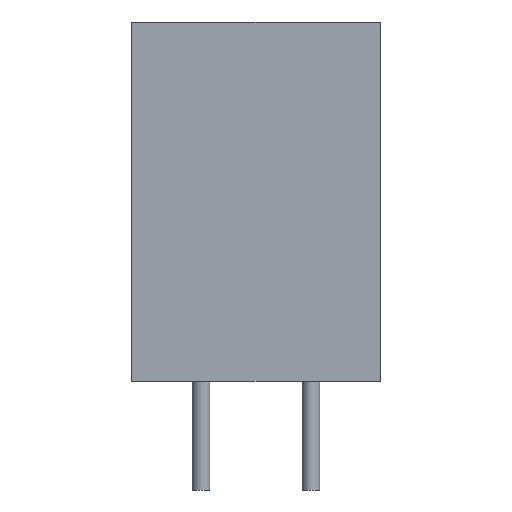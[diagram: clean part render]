
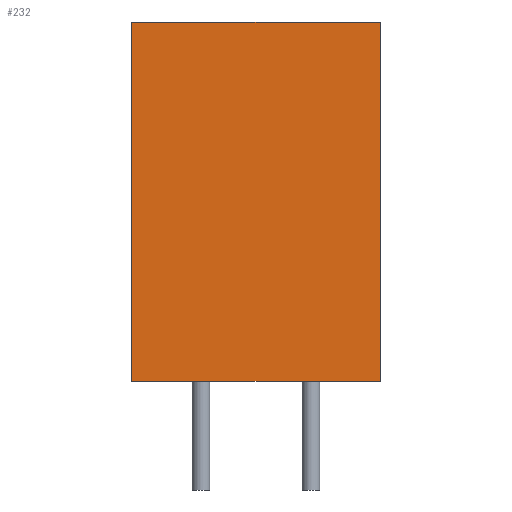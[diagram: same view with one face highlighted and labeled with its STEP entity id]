
A CAD part, front view. The second image highlights one B-rep face of the part: STEP entity #232.
In plain terms, the highlighted planar face has unit normal (0, -1, 0).
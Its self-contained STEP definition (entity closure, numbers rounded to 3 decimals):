
#63 = PLANE('',#64);
#64 = AXIS2_PLACEMENT_3D('',#65,#66,#67);
#65 = CARTESIAN_POINT('',(-3.175,-1.5,0.));
#66 = DIRECTION('',(-1.,0.,0.));
#67 = DIRECTION('',(0.,1.,0.));
#91 = PLANE('',#92);
#92 = AXIS2_PLACEMENT_3D('',#93,#94,#95);
#93 = CARTESIAN_POINT('',(-3.175,1.5,16.5));
#94 = DIRECTION('',(0.,0.,1.));
#95 = DIRECTION('',(1.,0.,0.));
#119 = PLANE('',#120);
#120 = AXIS2_PLACEMENT_3D('',#121,#122,#123);
#121 = CARTESIAN_POINT('',(8.225,1.5,0.));
#122 = DIRECTION('',(1.,0.,-0.));
#123 = DIRECTION('',(0.,-1.,0.));
#145 = PLANE('',#146);
#146 = AXIS2_PLACEMENT_3D('',#147,#148,#149);
#147 = CARTESIAN_POINT('',(-3.175,1.5,0.));
#148 = DIRECTION('',(0.,0.,1.));
#149 = DIRECTION('',(1.,0.,0.));
#162 = VERTEX_POINT('',#163);
#163 = CARTESIAN_POINT('',(8.225,-1.5,16.5));
#184 = EDGE_CURVE('',#185,#162,#187,.T.);
#185 = VERTEX_POINT('',#186);
#186 = CARTESIAN_POINT('',(8.225,-1.5,0.));
#187 = SURFACE_CURVE('',#188,(#192,#199),.PCURVE_S1.);
#188 = LINE('',#189,#190);
#189 = CARTESIAN_POINT('',(8.225,-1.5,0.));
#190 = VECTOR('',#191,1.);
#191 = DIRECTION('',(0.,0.,1.));
#192 = PCURVE('',#119,#193);
#193 = DEFINITIONAL_REPRESENTATION('',(#194),#198);
#194 = LINE('',#195,#196);
#195 = CARTESIAN_POINT('',(3.,0.));
#196 = VECTOR('',#197,1.);
#197 = DIRECTION('',(0.,-1.));
#198 = ( GEOMETRIC_REPRESENTATION_CONTEXT(2) 
PARAMETRIC_REPRESENTATION_CONTEXT() REPRESENTATION_CONTEXT('2D SPACE',''
  ) );
#199 = PCURVE('',#200,#205);
#200 = PLANE('',#201);
#201 = AXIS2_PLACEMENT_3D('',#202,#203,#204);
#202 = CARTESIAN_POINT('',(8.225,-1.5,0.));
#203 = DIRECTION('',(0.,-1.,0.));
#204 = DIRECTION('',(-1.,0.,0.));
#205 = DEFINITIONAL_REPRESENTATION('',(#206),#210);
#206 = LINE('',#207,#208);
#207 = CARTESIAN_POINT('',(0.,-0.));
#208 = VECTOR('',#209,1.);
#209 = DIRECTION('',(0.,-1.));
#210 = ( GEOMETRIC_REPRESENTATION_CONTEXT(2) 
PARAMETRIC_REPRESENTATION_CONTEXT() REPRESENTATION_CONTEXT('2D SPACE',''
  ) );
#232 = ADVANCED_FACE('',(#233),#200,.T.);
#233 = FACE_BOUND('',#234,.T.);
#234 = EDGE_LOOP('',(#235,#236,#259,#282));
#235 = ORIENTED_EDGE('',*,*,#184,.T.);
#236 = ORIENTED_EDGE('',*,*,#237,.T.);
#237 = EDGE_CURVE('',#162,#238,#240,.T.);
#238 = VERTEX_POINT('',#239);
#239 = CARTESIAN_POINT('',(-3.175,-1.5,16.5));
#240 = SURFACE_CURVE('',#241,(#245,#252),.PCURVE_S1.);
#241 = LINE('',#242,#243);
#242 = CARTESIAN_POINT('',(8.225,-1.5,16.5));
#243 = VECTOR('',#244,1.);
#244 = DIRECTION('',(-1.,0.,0.));
#245 = PCURVE('',#200,#246);
#246 = DEFINITIONAL_REPRESENTATION('',(#247),#251);
#247 = LINE('',#248,#249);
#248 = CARTESIAN_POINT('',(0.,-16.5));
#249 = VECTOR('',#250,1.);
#250 = DIRECTION('',(1.,0.));
#251 = ( GEOMETRIC_REPRESENTATION_CONTEXT(2) 
PARAMETRIC_REPRESENTATION_CONTEXT() REPRESENTATION_CONTEXT('2D SPACE',''
  ) );
#252 = PCURVE('',#91,#253);
#253 = DEFINITIONAL_REPRESENTATION('',(#254),#258);
#254 = LINE('',#255,#256);
#255 = CARTESIAN_POINT('',(11.4,-3.));
#256 = VECTOR('',#257,1.);
#257 = DIRECTION('',(-1.,0.));
#258 = ( GEOMETRIC_REPRESENTATION_CONTEXT(2) 
PARAMETRIC_REPRESENTATION_CONTEXT() REPRESENTATION_CONTEXT('2D SPACE',''
  ) );
#259 = ORIENTED_EDGE('',*,*,#260,.F.);
#260 = EDGE_CURVE('',#261,#238,#263,.T.);
#261 = VERTEX_POINT('',#262);
#262 = CARTESIAN_POINT('',(-3.175,-1.5,0.));
#263 = SURFACE_CURVE('',#264,(#268,#275),.PCURVE_S1.);
#264 = LINE('',#265,#266);
#265 = CARTESIAN_POINT('',(-3.175,-1.5,0.));
#266 = VECTOR('',#267,1.);
#267 = DIRECTION('',(0.,0.,1.));
#268 = PCURVE('',#200,#269);
#269 = DEFINITIONAL_REPRESENTATION('',(#270),#274);
#270 = LINE('',#271,#272);
#271 = CARTESIAN_POINT('',(11.4,0.));
#272 = VECTOR('',#273,1.);
#273 = DIRECTION('',(0.,-1.));
#274 = ( GEOMETRIC_REPRESENTATION_CONTEXT(2) 
PARAMETRIC_REPRESENTATION_CONTEXT() REPRESENTATION_CONTEXT('2D SPACE',''
  ) );
#275 = PCURVE('',#63,#276);
#276 = DEFINITIONAL_REPRESENTATION('',(#277),#281);
#277 = LINE('',#278,#279);
#278 = CARTESIAN_POINT('',(0.,0.));
#279 = VECTOR('',#280,1.);
#280 = DIRECTION('',(0.,-1.));
#281 = ( GEOMETRIC_REPRESENTATION_CONTEXT(2) 
PARAMETRIC_REPRESENTATION_CONTEXT() REPRESENTATION_CONTEXT('2D SPACE',''
  ) );
#282 = ORIENTED_EDGE('',*,*,#283,.F.);
#283 = EDGE_CURVE('',#185,#261,#284,.T.);
#284 = SURFACE_CURVE('',#285,(#289,#296),.PCURVE_S1.);
#285 = LINE('',#286,#287);
#286 = CARTESIAN_POINT('',(8.225,-1.5,0.));
#287 = VECTOR('',#288,1.);
#288 = DIRECTION('',(-1.,0.,0.));
#289 = PCURVE('',#200,#290);
#290 = DEFINITIONAL_REPRESENTATION('',(#291),#295);
#291 = LINE('',#292,#293);
#292 = CARTESIAN_POINT('',(0.,-0.));
#293 = VECTOR('',#294,1.);
#294 = DIRECTION('',(1.,0.));
#295 = ( GEOMETRIC_REPRESENTATION_CONTEXT(2) 
PARAMETRIC_REPRESENTATION_CONTEXT() REPRESENTATION_CONTEXT('2D SPACE',''
  ) );
#296 = PCURVE('',#145,#297);
#297 = DEFINITIONAL_REPRESENTATION('',(#298),#302);
#298 = LINE('',#299,#300);
#299 = CARTESIAN_POINT('',(11.4,-3.));
#300 = VECTOR('',#301,1.);
#301 = DIRECTION('',(-1.,0.));
#302 = ( GEOMETRIC_REPRESENTATION_CONTEXT(2) 
PARAMETRIC_REPRESENTATION_CONTEXT() REPRESENTATION_CONTEXT('2D SPACE',''
  ) );
